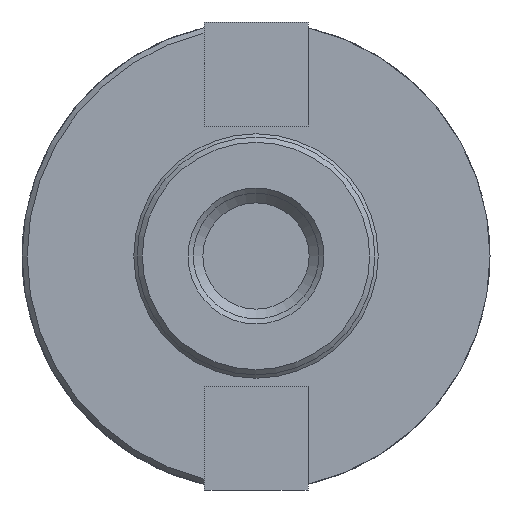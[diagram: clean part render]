
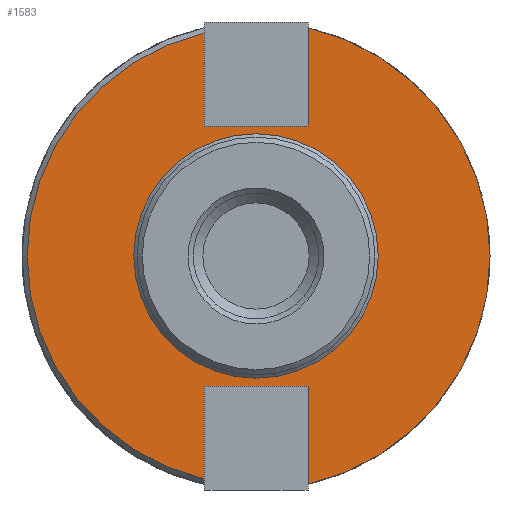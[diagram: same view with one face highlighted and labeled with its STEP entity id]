
A CAD part, front view. The second image highlights one B-rep face of the part: STEP entity #1583.
In plain terms, the highlighted planar face has unit normal (0, -1, 0).
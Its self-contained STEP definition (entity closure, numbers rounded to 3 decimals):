
#99=FACE_BOUND('',#259,.T.);
#108=PLANE('',#1719);
#163=FACE_OUTER_BOUND('',#258,.T.);
#258=EDGE_LOOP('',(#1119,#1120,#1121,#1122,#1123,#1124,#1125,#1126));
#259=EDGE_LOOP('',(#1127));
#353=LINE('',#2401,#472);
#354=LINE('',#2403,#473);
#355=LINE('',#2405,#474);
#356=LINE('',#2409,#475);
#357=LINE('',#2411,#476);
#358=LINE('',#2412,#477);
#472=VECTOR('',#1941,10.);
#473=VECTOR('',#1942,10.);
#474=VECTOR('',#1943,10.);
#475=VECTOR('',#1946,10.);
#476=VECTOR('',#1947,10.);
#477=VECTOR('',#1948,10.);
#604=CIRCLE('',#1718,16.45);
#605=CIRCLE('',#1720,30.8);
#606=CIRCLE('',#1721,31.5);
#687=VERTEX_POINT('',#2393);
#688=VERTEX_POINT('',#2397);
#689=VERTEX_POINT('',#2398);
#690=VERTEX_POINT('',#2400);
#691=VERTEX_POINT('',#2402);
#692=VERTEX_POINT('',#2404);
#693=VERTEX_POINT('',#2406);
#694=VERTEX_POINT('',#2408);
#695=VERTEX_POINT('',#2410);
#858=EDGE_CURVE('',#687,#687,#604,.T.);
#859=EDGE_CURVE('',#688,#689,#605,.T.);
#860=EDGE_CURVE('',#688,#690,#353,.T.);
#861=EDGE_CURVE('',#690,#691,#354,.T.);
#862=EDGE_CURVE('',#691,#692,#355,.T.);
#863=EDGE_CURVE('',#692,#693,#606,.T.);
#864=EDGE_CURVE('',#693,#694,#356,.T.);
#865=EDGE_CURVE('',#694,#695,#357,.T.);
#866=EDGE_CURVE('',#695,#689,#358,.T.);
#1119=ORIENTED_EDGE('',*,*,#859,.F.);
#1120=ORIENTED_EDGE('',*,*,#860,.T.);
#1121=ORIENTED_EDGE('',*,*,#861,.T.);
#1122=ORIENTED_EDGE('',*,*,#862,.T.);
#1123=ORIENTED_EDGE('',*,*,#863,.T.);
#1124=ORIENTED_EDGE('',*,*,#864,.T.);
#1125=ORIENTED_EDGE('',*,*,#865,.T.);
#1126=ORIENTED_EDGE('',*,*,#866,.T.);
#1127=ORIENTED_EDGE('',*,*,#858,.F.);
#1583=ADVANCED_FACE('',(#163,#99),#108,.T.);
#1718=AXIS2_PLACEMENT_3D('',#2395,#1935,#1936);
#1719=AXIS2_PLACEMENT_3D('',#2396,#1937,#1938);
#1720=AXIS2_PLACEMENT_3D('',#2399,#1939,#1940);
#1721=AXIS2_PLACEMENT_3D('',#2407,#1944,#1945);
#1935=DIRECTION('center_axis',(0.,-1.,0.));
#1936=DIRECTION('ref_axis',(-1.,0.,0.));
#1937=DIRECTION('center_axis',(0.,-1.,0.));
#1938=DIRECTION('ref_axis',(0.,0.,-1.));
#1939=DIRECTION('center_axis',(0.,1.,0.));
#1940=DIRECTION('ref_axis',(-1.,0.,0.));
#1941=DIRECTION('',(0.,0.,1.));
#1942=DIRECTION('',(1.,0.,0.));
#1943=DIRECTION('',(0.,0.,-1.));
#1944=DIRECTION('center_axis',(0.,-1.,0.));
#1945=DIRECTION('ref_axis',(1.,0.,0.));
#1946=DIRECTION('',(0.,0.,-1.));
#1947=DIRECTION('',(-1.,0.,0.));
#1948=DIRECTION('',(0.,0.,1.));
#2393=CARTESIAN_POINT('',(16.45,20.6,0.));
#2395=CARTESIAN_POINT('Origin',(0.,20.6,0.));
#2396=CARTESIAN_POINT('Origin',(15.75,20.6,0.));
#2397=CARTESIAN_POINT('',(-7.,20.6,-29.994));
#2398=CARTESIAN_POINT('',(-7.,20.6,29.994));
#2399=CARTESIAN_POINT('Origin',(0.,20.6,0.));
#2400=CARTESIAN_POINT('',(-7.,20.6,-17.5));
#2401=CARTESIAN_POINT('',(-7.,20.6,-15.75));
#2402=CARTESIAN_POINT('',(7.,20.6,-17.5));
#2403=CARTESIAN_POINT('',(7.875,20.6,-17.5));
#2404=CARTESIAN_POINT('',(7.,20.6,-30.712));
#2405=CARTESIAN_POINT('',(7.,20.6,-15.75));
#2406=CARTESIAN_POINT('',(7.,20.6,30.712));
#2407=CARTESIAN_POINT('Origin',(0.,20.6,0.));
#2408=CARTESIAN_POINT('',(7.,20.6,17.5));
#2409=CARTESIAN_POINT('',(7.,20.6,15.75));
#2410=CARTESIAN_POINT('',(-7.,20.6,17.5));
#2411=CARTESIAN_POINT('',(7.875,20.6,17.5));
#2412=CARTESIAN_POINT('',(-7.,20.6,15.75));
